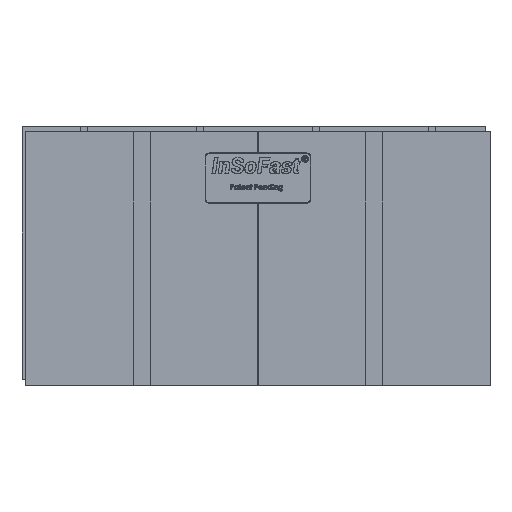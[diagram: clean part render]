
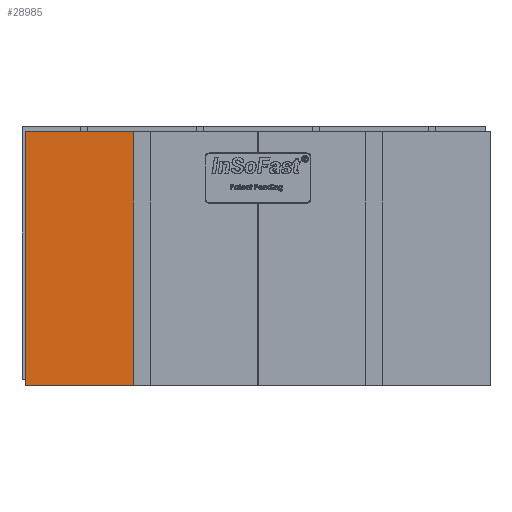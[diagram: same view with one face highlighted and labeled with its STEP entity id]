
A CAD part, top view. The second image highlights one B-rep face of the part: STEP entity #28985.
In plain terms, the highlighted planar face has unit normal (0, 0, 1).
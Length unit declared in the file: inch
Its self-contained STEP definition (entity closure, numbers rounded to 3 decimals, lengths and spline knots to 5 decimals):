
#491 = VERTEX_POINT ( 'NONE', #13318 ) ;
#1395 = EDGE_LOOP ( 'NONE', ( #22435, #21030, #8391, #33693 ) ) ;
#3283 = LINE ( 'NONE', #32966, #19366 ) ;
#3797 = CARTESIAN_POINT ( 'NONE',  ( -11.74925, 0., 1. ) ) ;
#6998 = VERTEX_POINT ( 'NONE', #14231 ) ;
#7624 = AXIS2_PLACEMENT_3D ( 'NONE', #13251, #23893, #15520 ) ;
#8391 = ORIENTED_EDGE ( 'NONE', *, *, #29772, .F. ) ;
#8666 = VECTOR ( 'NONE', #34191, 39.37008 ) ;
#10336 = CARTESIAN_POINT ( 'NONE',  ( -21.9685, 0., 1. ) ) ;
#13127 = VERTEX_POINT ( 'NONE', #10336 ) ;
#13251 = CARTESIAN_POINT ( 'NONE',  ( -21.9685, 24., 1. ) ) ;
#13318 = CARTESIAN_POINT ( 'NONE',  ( -11.74925, 24., 1. ) ) ;
#14231 = CARTESIAN_POINT ( 'NONE',  ( -21.9685, 24., 1. ) ) ;
#14257 = EDGE_CURVE ( 'NONE', #18193, #491, #32507, .T. ) ;
#15336 = CARTESIAN_POINT ( 'NONE',  ( -21.9685, 24., 1. ) ) ;
#15520 = DIRECTION ( 'NONE',  ( -1., 0., 0. ) ) ;
#18193 = VERTEX_POINT ( 'NONE', #3797 ) ;
#18325 = CARTESIAN_POINT ( 'NONE',  ( -21.9685, 0., 1. ) ) ;
#19366 = VECTOR ( 'NONE', #30357, 39.37008 ) ;
#20403 = LINE ( 'NONE', #15336, #8666 ) ;
#21030 = ORIENTED_EDGE ( 'NONE', *, *, #14257, .T. ) ;
#22323 = EDGE_CURVE ( 'NONE', #6998, #13127, #20403, .T. ) ;
#22435 = ORIENTED_EDGE ( 'NONE', *, *, #29656, .T. ) ;
#23543 = PLANE ( 'NONE',  #7624 ) ;
#23893 = DIRECTION ( 'NONE',  ( 0., 0., -1. ) ) ;
#24637 = DIRECTION ( 'NONE',  ( 0., 1., 0. ) ) ;
#25489 = VECTOR ( 'NONE', #29140, 39.37008 ) ;
#26510 = VECTOR ( 'NONE', #24637, 39.37008 ) ;
#27431 = CARTESIAN_POINT ( 'NONE',  ( -11.74925, 24., 1. ) ) ;
#28985 = ADVANCED_FACE ( 'NONE', ( #34204 ), #23543, .F. ) ;
#29140 = DIRECTION ( 'NONE',  ( 1., 0., 0. ) ) ;
#29487 = LINE ( 'NONE', #18325, #25489 ) ;
#29656 = EDGE_CURVE ( 'NONE', #13127, #18193, #29487, .T. ) ;
#29772 = EDGE_CURVE ( 'NONE', #6998, #491, #3283, .T. ) ;
#30357 = DIRECTION ( 'NONE',  ( 1., 0., 0. ) ) ;
#32507 = LINE ( 'NONE', #27431, #26510 ) ;
#32966 = CARTESIAN_POINT ( 'NONE',  ( -21.9685, 24., 1. ) ) ;
#33693 = ORIENTED_EDGE ( 'NONE', *, *, #22323, .T. ) ;
#34191 = DIRECTION ( 'NONE',  ( 0., -1., 0. ) ) ;
#34204 = FACE_OUTER_BOUND ( 'NONE', #1395, .T. ) ;
